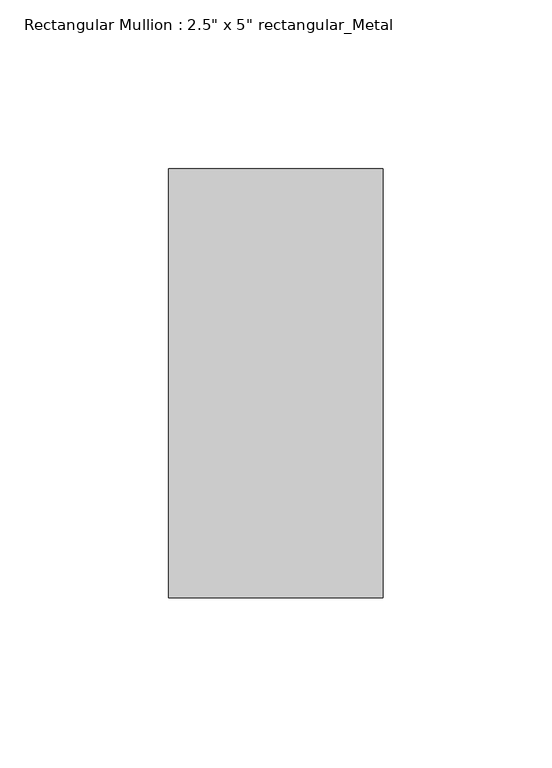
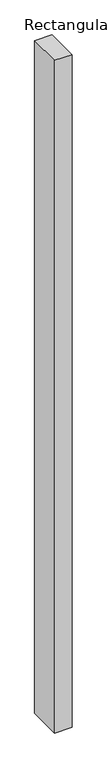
"""IFC4 building model written with IfcOpenShell, lengths in millimetres: member geometry."""

import ifcopenshell
import ifcopenshell.guid

model = None  # the IFC model being written
_history = None  # IfcOwnerHistory: only IFC2X3 demands one
_inside = {}  # id of a spatial element -> (the spatial element, [elements in it])
_under = {}  # id of a project, library or spatial element -> (it, [spatial elements below it])
_declared = {}  # id of a project -> (the project, [libraries it declares])
_typed = {}  # id of a type object -> (the type object, [elements of that type])
_made_of = {}  # id of a material, layer set ... -> (it, [elements and type objects made of it])


def new_model(schema):
    """Start an empty IFC model of exactly this schema.

    Asked for "IFC4X3", IfcOpenShell would pick the latest addendum, in which some entities
    have other attributes; the version numbers below select the first issue.
    IFC2X3 requires an IfcOwnerHistory on every rooted entity: one is made here for all.
    """
    global model, _history
    if schema == "IFC4X3":
        model = ifcopenshell.file(schema_version=(4, 3, 0, 0))
    else:
        model = ifcopenshell.file(schema=schema)
    _inside.clear()
    _under.clear()
    _declared.clear()
    _typed.clear()
    _made_of.clear()
    _history = None
    if model.schema == "IFC2X3":
        org = make("IfcOrganization", Name="unknown")
        user = make(
            "IfcPersonAndOrganization",
            ThePerson=make("IfcPerson", FamilyName="unknown"),
            TheOrganization=org,
        )
        app = make(
            "IfcApplication",
            ApplicationDeveloper=org,
            Version="unknown",
            ApplicationFullName="unknown",
            ApplicationIdentifier="unknown",
        )
        _history = make(
            "IfcOwnerHistory",
            OwningUser=user,
            OwningApplication=app,
            ChangeAction="ADDED",
            CreationDate=0,
        )
    return model


def make(cls, **values):
    """One entity of the class cls with the attributes given. An attribute that is None is left unset."""
    return model.create_entity(
        cls, **{name: value for name, value in values.items() if value is not None}
    )


def rooted(cls, **values):
    """An entity with a GlobalId (a new one), such as an element, a storey or a relation."""
    return make(cls, GlobalId=ifcopenshell.guid.new(), OwnerHistory=_history, **values)


def si_unit(unit_type, name, prefix=None):
    """IfcSIUnit, for example si_unit("LENGTHUNIT", "METRE", prefix="MILLI")."""
    return make("IfcSIUnit", UnitType=unit_type, Prefix=prefix, Name=name)


def assignment(units):
    """IfcUnitAssignment: the units of a project."""
    return None if units is None else make("IfcUnitAssignment", Units=units)


def point(xyz):
    """IfcCartesianPoint."""
    return None if xyz is None else make("IfcCartesianPoint", Coordinates=xyz)


def direction(xyz):
    """IfcDirection."""
    return None if xyz is None else make("IfcDirection", DirectionRatios=xyz)


def frame(location, z_axis=None, x_axis=None):
    """IfcAxis2Placement3D, a coordinate frame: its origin and axes. An axis left out is left unset."""
    return make(
        "IfcAxis2Placement3D",
        Location=point(location),
        Axis=direction(z_axis),
        RefDirection=direction(x_axis),
    )


def origin():
    """The frame at (0, 0, 0) with its axes left unset."""
    return frame((0.0, 0.0, 0.0))


def place(relative_to, where):
    """IfcLocalPlacement: puts the frame where relative to a parent placement (None: the world)."""
    return make(
        "IfcLocalPlacement", PlacementRelTo=relative_to, RelativePlacement=where
    )


def context(
    kind, dimensions, precision=None, world=None, true_north=None, identifier=None
):
    """IfcGeometricRepresentationContext, for example the 3D "Model" context."""
    return make(
        "IfcGeometricRepresentationContext",
        ContextIdentifier=identifier,
        ContextType=kind,
        CoordinateSpaceDimension=dimensions,
        Precision=precision,
        WorldCoordinateSystem=world,
        TrueNorth=true_north,
    )


def project(units=None, contexts=None):
    """IfcProject with its units and contexts."""
    return rooted(
        "IfcProject",
        Name="project",
        RepresentationContexts=contexts,
        UnitsInContext=assignment(units),
    )


def spatial(cls, under=None, at=None, **own):
    """A site, building, storey or space (cls), placed at a placement, below another one or the project."""
    s = rooted(cls, ObjectPlacement=at, **own)
    if under is not None:
        _under.setdefault(under.id(), (under, []))[1].append(s)
    return s


def polyline(points):
    """IfcPolyline through the points."""
    return make("IfcPolyline", Points=[point(p) for p in points])


def outline(outer, holes=None, kind="AREA"):
    """IfcArbitraryClosedProfileDef: a profile drawn as a closed curve; with holes, ...WithVoids."""
    if holes is None:
        return make("IfcArbitraryClosedProfileDef", ProfileType=kind, OuterCurve=outer)
    return make(
        "IfcArbitraryProfileDefWithVoids",
        ProfileType=kind,
        OuterCurve=outer,
        InnerCurves=holes,
    )


def extrude(swept, where, along, depth):
    """IfcExtrudedAreaSolid: the profile swept, set in the frame where, extruded along a direction by depth."""
    return make(
        "IfcExtrudedAreaSolid",
        SweptArea=swept,
        Position=where,
        ExtrudedDirection=direction(along),
        Depth=depth,
    )


def shape(context_of_items, identifier, shape_type, items):
    """IfcShapeRepresentation: the items that make up one representation, for example the "Body"."""
    return make(
        "IfcShapeRepresentation",
        ContextOfItems=context_of_items,
        RepresentationIdentifier=identifier,
        RepresentationType=shape_type,
        Items=items,
    )


def source(mapping_origin, context_of_items, identifier, shape_type, items):
    """IfcRepresentationMap: a shape defined once, which mapped items show again and again."""
    return make(
        "IfcRepresentationMap",
        MappingOrigin=mapping_origin,
        MappedRepresentation=shape(context_of_items, identifier, shape_type, items),
    )


def transform(
    local_origin,
    x_axis=None,
    y_axis=None,
    z_axis=None,
    scale=None,
    scale2=None,
    scale3=None,
    uniform=True,
):
    """IfcCartesianTransformationOperator3D, or its non-uniform kind. x_axis, y_axis, z_axis: its Axis1, 2, 3."""
    if uniform:
        return make(
            "IfcCartesianTransformationOperator3D",
            Axis1=direction(x_axis),
            Axis2=direction(y_axis),
            LocalOrigin=point(local_origin),
            Scale=scale,
            Axis3=direction(z_axis),
        )
    return make(
        "IfcCartesianTransformationOperator3DnonUniform",
        Axis1=direction(x_axis),
        Axis2=direction(y_axis),
        LocalOrigin=point(local_origin),
        Scale=scale,
        Axis3=direction(z_axis),
        Scale2=scale2,
        Scale3=scale3,
    )


def mapped(mapping_source, mapping_target):
    """IfcMappedItem: shows the shape of a source again, moved by a transform."""
    return make(
        "IfcMappedItem", MappingSource=mapping_source, MappingTarget=mapping_target
    )


def made_of(thing, what):
    """Note that an element or type object is made of a material, layer set ...; save() writes the relation."""
    if what is not None:
        _made_of.setdefault(what.id(), (what, []))[1].append(thing)
    return thing


def element(
    cls,
    number,
    at=None,
    inside=None,
    cuts=None,
    type_object=None,
    material=None,
    context=None,
    identifier="Body",
    shape_type=None,
    held_by="IfcProductDefinitionShape",
    body=None,
    shapes=None,
    **own,
):
    """One element of the class cls, such as IfcWall. Its Tag is "e" and its number.

    at: its placement. inside: the storey or other place that contains it. cuts: it is an
    opening in that element (IfcRelVoidsElement). A single representation is given by context,
    identifier, shape_type and body (its items); several are given by shapes. held_by: the class
    of the entity that holds the representations. save() writes the other relations.
    """
    e = rooted(cls, Tag="e%d" % number, ObjectPlacement=at, **own)
    if body is not None:
        shapes = [shape(context, identifier, shape_type, body)]
    if shapes is not None:
        e.Representation = make(held_by, Representations=shapes)
    if inside is not None:
        _inside.setdefault(inside.id(), (inside, []))[1].append(e)
    if cuts is not None:
        rooted(
            "IfcRelVoidsElement", RelatingBuildingElement=cuts, RelatedOpeningElement=e
        )
    if type_object is not None:
        _typed.setdefault(type_object.id(), (type_object, []))[1].append(e)
    return made_of(e, material)


def aggregate(whole, parts):
    """IfcRelAggregates: a whole, such as a stair, and the parts it consists of."""
    return rooted("IfcRelAggregates", RelatingObject=whole, RelatedObjects=parts)


def save(model, path):
    """Write the relations noted so far, then the file.

    IfcRelAggregates (storeys below a building ...), IfcRelContainedInSpatialStructure (elements
    in a storey), IfcRelDefinesByType, IfcRelAssociatesMaterial and IfcRelDeclares: one each for
    every whole, place, type object, material and project.
    """
    for whole, parts in _under.values():
        aggregate(whole, parts)
    for where, things in _inside.values():
        rooted(
            "IfcRelContainedInSpatialStructure",
            RelatedElements=things,
            RelatingStructure=where,
        )
    for kind, things in _typed.values():
        rooted("IfcRelDefinesByType", RelatedObjects=things, RelatingType=kind)
    for what, things in _made_of.values():
        rooted("IfcRelAssociatesMaterial", RelatedObjects=things, RelatingMaterial=what)
    for by, libraries in _declared.values():
        rooted("IfcRelDeclares", RelatingContext=by, RelatedDefinitions=libraries)
    model.write(path)


def member_70c1698b(model_context):
    return source(origin(), model_context, "Body", "SweptSolid", [
        extrude(outline(polyline([(0.0, 63.5), (0.0, -63.5), (-63.5, -63.5), (-63.5, 63.5), (0.0, 63.5)])), frame((0.0, 0.0, -2616.2), z_axis=(0.0, 0.0, 1.0), x_axis=(1.0, 0.0, 0.0)), (0.0, 0.0, 1.0), 2616.2),
    ])


if __name__ == "__main__":
    model = new_model("IFC4")
    model_context = context("Model", 3, world=origin())
    ifc_project = project(units=[si_unit("LENGTHUNIT", "METRE", prefix="MILLI")], contexts=[model_context])
    site = spatial("IfcSite", under=ifc_project)
    building = spatial("IfcBuilding", under=site)
    placement = place(None, origin())
    member_shape = member_70c1698b(model_context)
    element("IfcMember", 1, ObjectType="Rectangular Mullion : 2.5\" x 5\" rectangular_Metal", at=placement, inside=building, context=model_context, shape_type="MappedRepresentation", body=[
        mapped(member_shape, transform((0.0, 0.0, 0.0), x_axis=(1.0, 0.0, 0.0), y_axis=(0.0, 1.0, 0.0), z_axis=(0.0, 0.0, 1.0))),
    ])
    save(model, "model.ifc")
